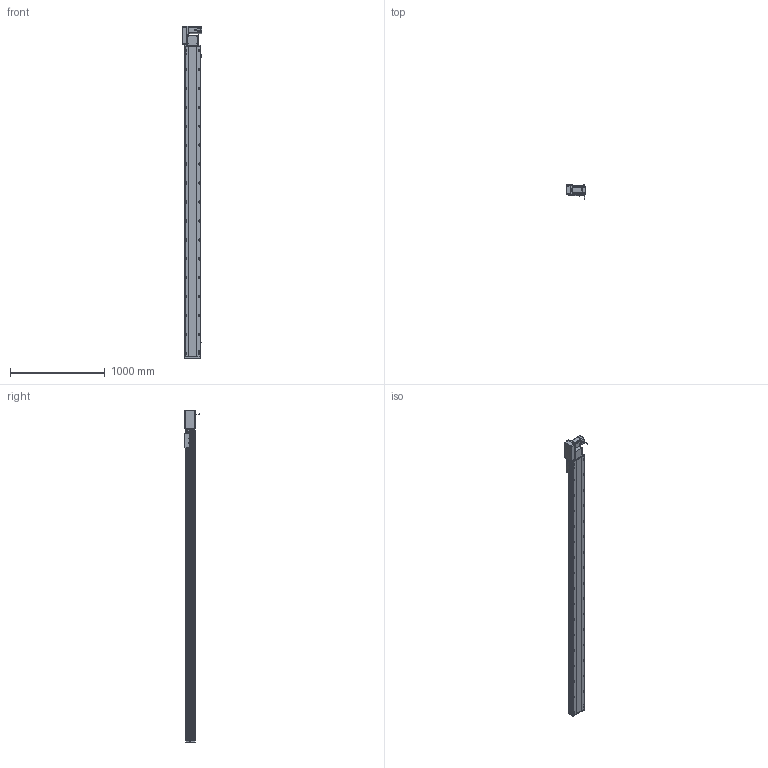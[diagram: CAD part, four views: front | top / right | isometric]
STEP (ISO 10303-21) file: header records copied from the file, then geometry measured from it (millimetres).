
FILE_DESCRIPTION (( 'STEP AP214' ), '1' );
FILE_NAME ('RTB17S-XX-3000-L-M75-C4.STEP', '2025-12-12T00:24:53', ( '' ), ( '' ), 'SwSTEP 2.0', 'SolidWorks 2018', '' );
FILE_SCHEMA (( 'AUTOMOTIVE_DESIGN' ));
Length unit declared in the file: millimetre
Products named in the file (15): RTB17-R-011菁釱^RTB17S-XX-XX-L-M75-C4; 750W萇儂^RTB17S-XX-XX-L-M75-C4; RTB17S-賑釱^RTB17S-XX-XX-L-M75-C4; RTH13-BL-012覜茼え俋离^RTB17S-賑釱_RTB17S-XX-XX-L-M75-C4; RTB22S-GY-008-M75--萇儂啣^RTB17S-L-々湍釱蚾饜-750W_RTB17S-XX-XX-L-M75-C4; RTB22S-GY-018P^RTB17S-L-々湍釱蚾饜-750W_RTB17S-XX-XX-L-M75-C4; RTB22S-GY-005P^RTB17S-L-々湍釱蚾饜-750W_RTB17S-XX-XX-L-M75-C4; RTB17S-XX-3000-L-M75-C4; RTB17S-L-001-耜醱啣^RTB17S-XX-XX-L-M75-C4; RTB17S-L-004-賑釱^RTB17S-賑釱_RTB17S-XX-XX-L-M75-C4; EE672^RTB17S-XX-XX-L-M75-C4; RTB22S-GY-017P^RTB17S-L-々湍釱蚾饜-750W_RTB17S-XX-XX-L-M75-C4; RTB17S-L-々湍釱蚾饜-750W^RTB17S-XX-XX-L-M75-C4; RTB17S-L-007奻裔^RTB17S-XX-XX-L-M75-C4; RMP17S-L-014-T20-P75--々湍釱^RTB17S-L-々湍釱蚾饜-750W_RTB17S-XX-XX-L-M75-C4
Assembly tree (17 placements, depth 3):
  RTB17S-XX-3000-L-M75-C4
    RTB17-R-011菁釱^RTB17S-XX-XX-L-M75-C4
    EE672^RTB17S-XX-XX-L-M75-C4  x3
    RTB17S-L-001-耜醱啣^RTB17S-XX-XX-L-M75-C4
    RTB17S-賑釱^RTB17S-XX-XX-L-M75-C4
      RTB17S-L-004-賑釱^RTB17S-賑釱_RTB17S-XX-XX-L-M75-C4
      RTH13-BL-012覜茼え俋离^RTB17S-賑釱_RTB17S-XX-XX-L-M75-C4
    RTB17S-L-007奻裔^RTB17S-XX-XX-L-M75-C4
    750W萇儂^RTB17S-XX-XX-L-M75-C4
    RTB17S-L-々湍釱蚾饜-750W^RTB17S-XX-XX-L-M75-C4
      RMP17S-L-014-T20-P75--々湍釱^RTB17S-L-々湍釱蚾饜-750W_RTB17S-XX-XX-L-M75-C4
      RTB22S-GY-005P^RTB17S-L-々湍釱蚾饜-750W_RTB17S-XX-XX-L-M75-C4
      RTB22S-GY-017P^RTB17S-L-々湍釱蚾饜-750W_RTB17S-XX-XX-L-M75-C4  x2
      RTB22S-GY-008-M75--萇儂啣^RTB17S-L-々湍釱蚾饜-750W_RTB17S-XX-XX-L-M75-C4
      RTB22S-GY-018P^RTB17S-L-々湍釱蚾饜-750W_RTB17S-XX-XX-L-M75-C4
Bounding box: 210.4 x 152.7 x 3499 mm (x, y, z)
Volume: 24706077.9 mm3; surface area: 4526678.2 mm2
Topology: 17 solids, 17 shells, 2249 faces, 6322 edges, 4094 vertices
Faces by surface type: plane 990, cylinder 843, bspline 294, cone 110, sphere 8, torus 4
Entity records: 65782 total; most frequent: CARTESIAN_POINT 19586, ORIENTED_EDGE 9488, DIRECTION 8762, EDGE_CURVE 4744, AXIS2_PLACEMENT_3D 3114, VERTEX_POINT 3098, VECTOR 2534, LINE 2534
